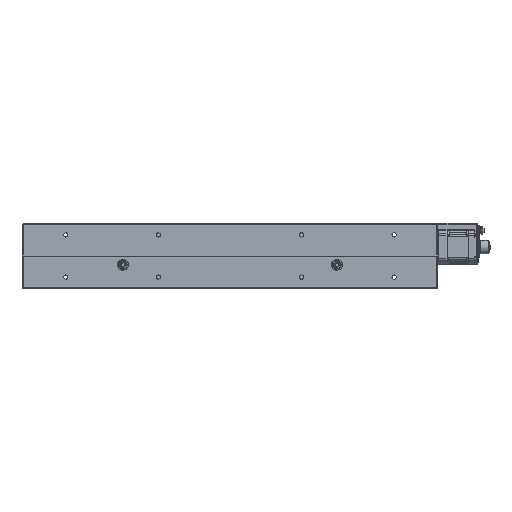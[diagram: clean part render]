
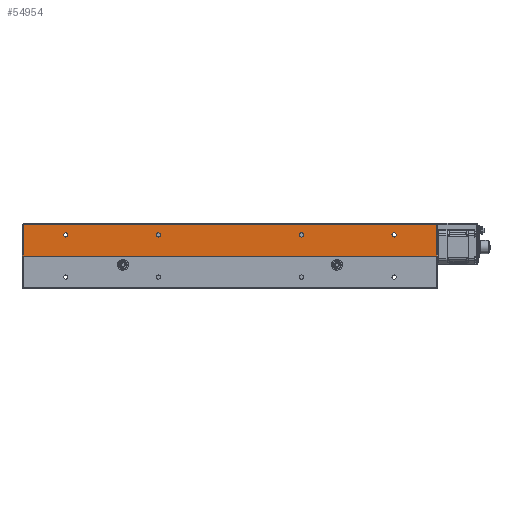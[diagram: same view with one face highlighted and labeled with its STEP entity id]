
A CAD part, left-side view. The second image highlights one B-rep face of the part: STEP entity #54954.
In plain terms, the highlighted planar face has unit normal (-1, 0, 0) as drawn and (0, 1, 0) by its records, which use the part's own axes.
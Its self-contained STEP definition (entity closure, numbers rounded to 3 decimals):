
#4435=LINE('',#79880,#9410);
#4439=LINE('',#79887,#9414);
#4511=LINE('',#80254,#9486);
#5235=LINE('',#85426,#10210);
#9410=VECTOR('',#63461,10.);
#9414=VECTOR('',#63467,10.);
#9486=VECTOR('',#63851,10.);
#10210=VECTOR('',#65271,10.);
#13985=PLANE('',#58551);
#15596=FACE_BOUND('',#20707,.T.);
#15597=FACE_BOUND('',#20708,.T.);
#15598=FACE_BOUND('',#20709,.T.);
#15599=FACE_BOUND('',#20710,.T.);
#17161=FACE_OUTER_BOUND('',#20706,.T.);
#20706=EDGE_LOOP('',(#43212,#43213,#43214,#43215));
#20707=EDGE_LOOP('',(#43216));
#20708=EDGE_LOOP('',(#43217));
#20709=EDGE_LOOP('',(#43218));
#20710=EDGE_LOOP('',(#43219));
#23497=CIRCLE('',#58260,2.459);
#23499=CIRCLE('',#58263,2.459);
#23525=CIRCLE('',#58531,2.459);
#23528=CIRCLE('',#58536,2.459);
#25481=VERTEX_POINT('',#79877);
#25482=VERTEX_POINT('',#79879);
#25484=VERTEX_POINT('',#79885);
#25623=VERTEX_POINT('',#80253);
#25973=VERTEX_POINT('',#81434);
#25975=VERTEX_POINT('',#81439);
#26400=VERTEX_POINT('',#85393);
#26403=VERTEX_POINT('',#85401);
#31248=EDGE_CURVE('',#25481,#25482,#4435,.T.);
#31252=EDGE_CURVE('',#25484,#25481,#4439,.T.);
#31416=EDGE_CURVE('',#25623,#25482,#4511,.T.);
#31783=EDGE_CURVE('',#25973,#25973,#23497,.T.);
#31785=EDGE_CURVE('',#25975,#25975,#23499,.T.);
#32571=EDGE_CURVE('',#26400,#26400,#23525,.T.);
#32574=EDGE_CURVE('',#26403,#26403,#23528,.T.);
#32584=EDGE_CURVE('',#25623,#25484,#5235,.T.);
#43212=ORIENTED_EDGE('',*,*,#31252,.F.);
#43213=ORIENTED_EDGE('',*,*,#32584,.F.);
#43214=ORIENTED_EDGE('',*,*,#31416,.T.);
#43215=ORIENTED_EDGE('',*,*,#31248,.F.);
#43216=ORIENTED_EDGE('',*,*,#31783,.T.);
#43217=ORIENTED_EDGE('',*,*,#31785,.T.);
#43218=ORIENTED_EDGE('',*,*,#32571,.T.);
#43219=ORIENTED_EDGE('',*,*,#32574,.T.);
#54954=ADVANCED_FACE('',(#17161,#15596,#15597,#15598,#15599),#13985,.T.);
#58260=AXIS2_PLACEMENT_3D('',#81435,#64149,#64150);
#58263=AXIS2_PLACEMENT_3D('',#81440,#64155,#64156);
#58531=AXIS2_PLACEMENT_3D('',#85394,#65232,#65233);
#58536=AXIS2_PLACEMENT_3D('',#85402,#65242,#65243);
#58551=AXIS2_PLACEMENT_3D('',#85435,#65283,#65284);
#63461=DIRECTION('',(0.,0.,1.));
#63467=DIRECTION('',(1.,0.,0.));
#63851=DIRECTION('',(1.,0.,0.));
#64149=DIRECTION('center_axis',(0.,-1.,0.));
#64150=DIRECTION('ref_axis',(1.,0.,0.));
#64155=DIRECTION('center_axis',(0.,-1.,0.));
#64156=DIRECTION('ref_axis',(1.,0.,0.));
#65232=DIRECTION('center_axis',(0.,-1.,0.));
#65233=DIRECTION('ref_axis',(1.,0.,0.));
#65242=DIRECTION('center_axis',(0.,-1.,0.));
#65243=DIRECTION('ref_axis',(1.,0.,0.));
#65271=DIRECTION('',(0.,0.,-1.));
#65283=DIRECTION('center_axis',(0.,1.,0.));
#65284=DIRECTION('ref_axis',(0.,0.,1.));
#79877=CARTESIAN_POINT('',(-1.5,494.,-37.5));
#79879=CARTESIAN_POINT('',(-1.5,494.,0.));
#79880=CARTESIAN_POINT('',(-1.5,494.,0.));
#79885=CARTESIAN_POINT('',(-492.5,494.,-37.5));
#79887=CARTESIAN_POINT('',(-123.5,494.,-37.5));
#80253=CARTESIAN_POINT('',(-492.5,494.,0.));
#80254=CARTESIAN_POINT('',(-494.,494.,0.));
#81434=CARTESIAN_POINT('',(-329.542,494.,-25.));
#81435=CARTESIAN_POINT('Origin',(-332.,494.,-25.));
#81439=CARTESIAN_POINT('',(-159.542,494.,-25.));
#81440=CARTESIAN_POINT('Origin',(-162.,494.,-25.));
#85393=CARTESIAN_POINT('',(-439.542,494.,-25.));
#85394=CARTESIAN_POINT('Origin',(-442.,494.,-25.));
#85401=CARTESIAN_POINT('',(-49.542,494.,-25.));
#85402=CARTESIAN_POINT('Origin',(-52.,494.,-25.));
#85426=CARTESIAN_POINT('',(-492.5,494.,0.));
#85435=CARTESIAN_POINT('Origin',(0.,494.,0.));
